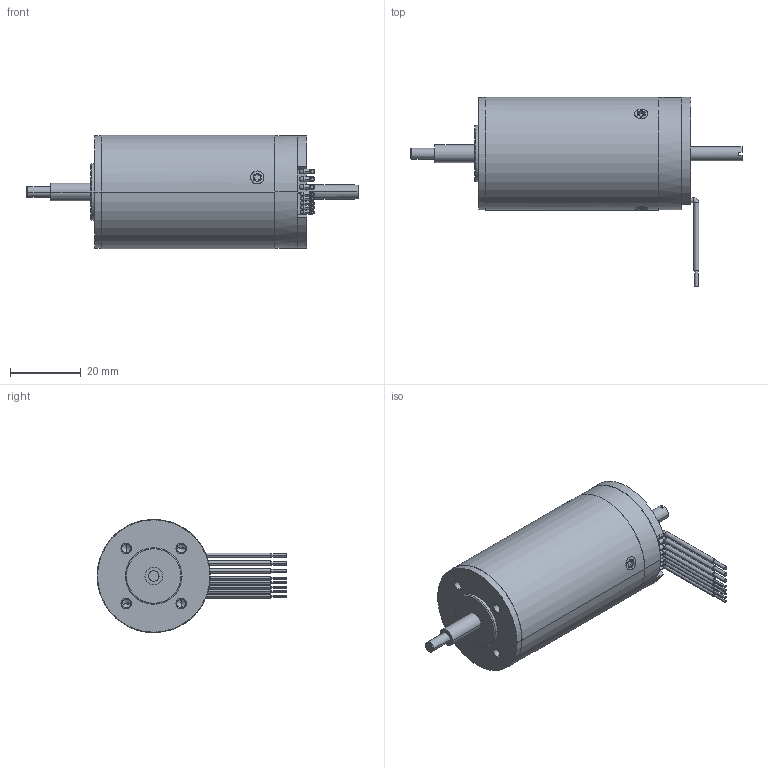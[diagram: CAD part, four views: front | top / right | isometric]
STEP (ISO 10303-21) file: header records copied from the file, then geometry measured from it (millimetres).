
FILE_DESCRIPTION((''),'2;1');
FILE_NAME('919764_ASM','2010-03-10T',('MMAGBRD'),(''),'PRO/ENGINEER BY PARAMETRIC TECHNOLOGY CORPORATION, 2009230','PRO/ENGINEER BY PARAMETRIC TECHNOLOGY CORPORATION, 2009230','');
FILE_SCHEMA(('CONFIG_CONTROL_DESIGN'));
Length unit declared in the file: millimetre
Products named in the file (1): 919764_ASM
Bounding box: 93.9 x 53.65 x 32 mm (x, y, z)
Volume: 48811.9 mm3; surface area: 9593.5 mm2
Topology: 1 solids, 8 shells, 530 faces, 1297 edges, 807 vertices
Faces by surface type: cylinder 265, plane 137, torus 97, cone 16, bspline 15
Entity records: 16154 total; most frequent: CARTESIAN_POINT 3203, DIRECTION 2995, ORIENTED_EDGE 2550, EDGE_CURVE 1289, AXIS2_PLACEMENT_3D 1229, VERTEX_POINT 807, CIRCLE 713, EDGE_LOOP 576
